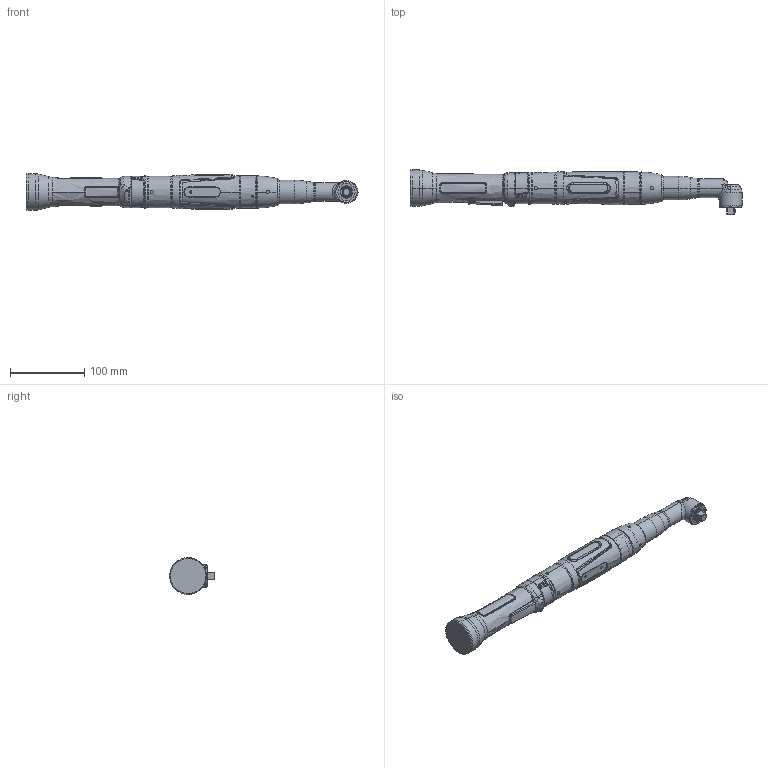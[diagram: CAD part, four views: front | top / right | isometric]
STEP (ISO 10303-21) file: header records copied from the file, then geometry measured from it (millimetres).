
FILE_DESCRIPTION (( 'STEP AP214' ), '1' );
FILE_NAME ('70259982_HSX1032WV38GF.STEP', '2026-03-16T12:33:22', ( '' ), ( '' ), 'SwSTEP 2.0', 'SolidWorks 2020', '' );
FILE_SCHEMA (( 'AUTOMOTIVE_DESIGN' ));
Length unit declared in the file: millimetre
Products named in the file (4): 70259982_HSX1032WV38GF; 70079652; 70086959; 70058292
Assembly tree (3 placements, depth 2):
  70259982_HSX1032WV38GF
    70086959
    70079652
    70058292
Bounding box: 448.1 x 61.35 x 49.5 mm (x, y, z)
Volume: 549810.1 mm3; surface area: 85280.7 mm2
Topology: 4 solids, 12 shells, 1173 faces, 2930 edges, 1827 vertices
Faces by surface type: plane 317, cylinder 310, bspline 293, cone 142, torus 109, sphere 2
Entity records: 50375 total; most frequent: CARTESIAN_POINT 24592, ORIENTED_EDGE 5844, DIRECTION 4595, EDGE_CURVE 2922, AXIS2_PLACEMENT_3D 1854, VERTEX_POINT 1827, EDGE_LOOP 1239, ADVANCED_FACE 1173
